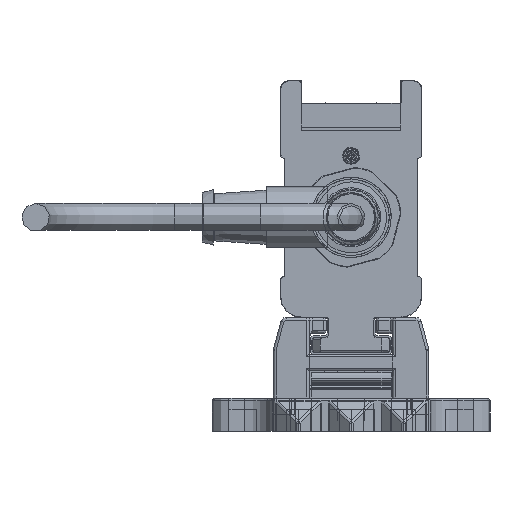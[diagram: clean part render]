
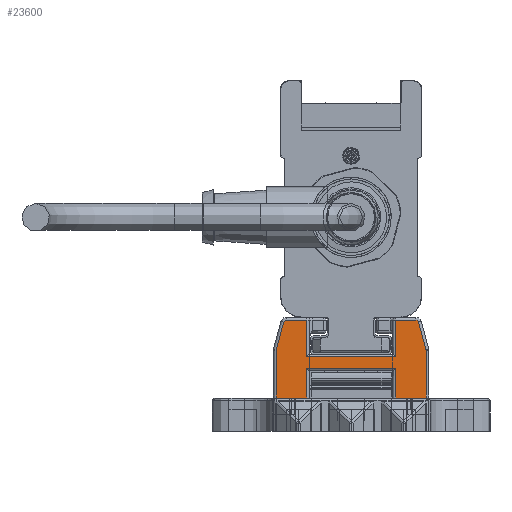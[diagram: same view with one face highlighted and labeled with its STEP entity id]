
A CAD part, left-side view. The second image highlights one B-rep face of the part: STEP entity #23600.
In plain terms, the highlighted planar face has unit normal (-1, 0, 0).
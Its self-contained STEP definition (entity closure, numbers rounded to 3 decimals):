
#23600=ADVANCED_FACE('', (#23610), #23620, .T.);
#189050=AXIS2_PLACEMENT_3D('Ax2Pl3d', #189060, #189070, #189080);
#189290=AXIS2_PLACEMENT_3D('Ax2Pl3d', #189300, #189310, #189320);
#194170=AXIS2_PLACEMENT_3D('Ax2Pl3d', #194180, #194190, #194200);
#199250=AXIS2_PLACEMENT_3D('Ax2Pl3d', #199260, #199270, #199280);
#208930=AXIS2_PLACEMENT_3D('Ax2Pl3d', #208940, #208950, #208960);
#844600=CARTESIAN_POINT('', (-747.669,-6006.345,
331.37));
#189060=CARTESIAN_POINT('HicPkt', (-747.669,-6005.379,
331.111));
#844610=CARTESIAN_POINT('', (-747.669,-6006.379,331.111)
);
#844620=CARTESIAN_POINT('', (-747.669,-6005.037,
336.255));
#844640=CARTESIAN_POINT('', (-747.669,-6005.037,
336.255));
#844670=CARTESIAN_POINT('', (-747.669,-6004.554,
336.625));
#189300=CARTESIAN_POINT('HicPkt', (-747.669,-6004.554,
336.125));
#844890=CARTESIAN_POINT('', (-747.669,-6006.379,322.625)
);
#844900=CARTESIAN_POINT('', (-747.669,-6000.881,322.625)
);
#844910=CARTESIAN_POINT('', (-747.669,-6000.881,322.625)
);
#844990=CARTESIAN_POINT('', (-747.669,-5984.881,322.625)
);
#845000=CARTESIAN_POINT('', (-747.669,-5979.383,322.625)
);
#845010=CARTESIAN_POINT('', (-747.669,-5979.383,322.625)
);
#194180=CARTESIAN_POINT('HicPkt', (-747.669,-5981.209,
336.125));
#847480=CARTESIAN_POINT('', (-747.669,-5980.726,
336.255));
#847490=CARTESIAN_POINT('', (-747.669,-5981.209,
336.625));
#847500=CARTESIAN_POINT('', (-747.669,-6000.881,
330.025));
#847510=CARTESIAN_POINT('', (-747.669,-5984.881,
330.025));
#847520=CARTESIAN_POINT('', (-747.669,-6000.881,
330.025));
#847680=CARTESIAN_POINT('', (-747.669,-6000.881,
328.005));
#847690=CARTESIAN_POINT('', (-747.669,-5984.881,
328.005));
#847700=CARTESIAN_POINT('', (-747.669,-5984.881,
328.005));
#847710=CARTESIAN_POINT('', (-747.669,-6000.881,
328.005));
#847730=CARTESIAN_POINT('', (-747.669,-5984.881,322.625)
);
#847740=CARTESIAN_POINT('', (-747.669,-5984.881,
330.025));
#847750=CARTESIAN_POINT('', (-747.669,-5984.881,
336.625));
#848600=CARTESIAN_POINT('', (-747.669,-5984.881,
336.625));
#848610=CARTESIAN_POINT('', (-747.669,-5980.726,
336.255));
#848620=CARTESIAN_POINT('', (-747.669,-5979.417,
331.37));
#848810=CARTESIAN_POINT('', (-747.669,-5979.383,331.111)
);
#848820=CARTESIAN_POINT('', (-747.669,-5979.383,331.111)
);
#199260=CARTESIAN_POINT('HicPkt', (-747.669,-5980.383,
331.111));
#849630=CARTESIAN_POINT('', (-747.669,-6006.379,331.111)
);
#208940=CARTESIAN_POINT('HicPkt', (-747.669,-6004.554,
336.625));
#851430=CARTESIAN_POINT('', (-747.669,-6000.881,
336.625));
#851440=CARTESIAN_POINT('', (-747.669,-6000.881,
336.625));
#851450=CARTESIAN_POINT('', (-747.669,-6000.881,
336.625));
#981330=CIRCLE('Circle', #189050, 1.);
#981370=CIRCLE('Circle', #189290, 0.5);
#981950=CIRCLE('Circle', #194170, 0.5);
#982480=CIRCLE('Circle', #199250, 1.);
#189070=DIRECTION('Axis', (-1.,0.,
0.));
#189080=DIRECTION('RefDirection', (0.,
0.,-1.));
#1367870=DIRECTION('', (0.,0.259,
0.966));
#189310=DIRECTION('Axis', (-1.,0.,
0.));
#189320=DIRECTION('RefDirection', (0.,
0.,-1.));
#1367980=DIRECTION('', (0.,1.,0.));
#1368020=DIRECTION('', (0.,1.,0.));
#194190=DIRECTION('Axis', (1.,0.,
0.));
#194200=DIRECTION('RefDirection', (0.,
0.,-1.));
#1369210=DIRECTION('', (0.,-1.,0.));
#1369310=DIRECTION('', (0.,1.,0.));
#1369320=DIRECTION('', (0.,0.,1.));
#1369340=DIRECTION('', (0.,0.,-1.));
#1369350=DIRECTION('', (0.,0.,-1.));
#1369780=DIRECTION('', (0.,-1.,0.))
;
#1369790=DIRECTION('', (0.,-0.259,0.966));
#1369880=DIRECTION('', (0.,0.,1.));
#199270=DIRECTION('Axis', (1.,0.,
0.));
#199280=DIRECTION('RefDirection', (0.,
0.,-1.));
#1370250=DIRECTION('', (0.,0.,1.));
#208950=DIRECTION('Axis', (-1.,0.,
0.));
#208960=DIRECTION('RefDirection', (0.,
0.,-1.));
#1371090=DIRECTION('', (0.,1.,0.));
#1371100=DIRECTION('', (0.,0.,1.));
#1456860=EDGE_CURVE('', #1456870, #1456850, #981330, .T.);
#1456920=EDGE_CURVE('', #1456850, #1456900, #1456930, .T.);
#1456990=EDGE_CURVE('', #1456900, #1456980, #981370, .T.);
#1457440=EDGE_CURVE('', #1457430, #1457450, #1457460, .T.);
#1457600=EDGE_CURVE('', #1457590, #1457610, #1457620, .T.);
#1461960=EDGE_CURVE('', #1461970, #1461980, #981950, .T.);
#1462010=EDGE_CURVE('', #1462020, #1462030, #1462040, .T.);
#1462380=EDGE_CURVE('', #1462360, #1462390, #1462400, .T.);
#1462430=EDGE_CURVE('', #1457450, #1462360, #1462440, .T.);
#1462470=EDGE_CURVE('', #1462390, #1457590, #1462480, .T.);
#1462490=EDGE_CURVE('', #1462500, #1462020, #1462510, .T.);
#1464330=EDGE_CURVE('', #1461980, #1462500, #1464340, .T.);
#1464400=EDGE_CURVE('', #1464410, #1461970, #1464420, .T.);
#1464840=EDGE_CURVE('', #1457610, #1464850, #1464860, .T.);
#1464880=EDGE_CURVE('', #1464850, #1464410, #982480, .T.);
#1466590=EDGE_CURVE('', #1457430, #1456870, #1466600, .T.);
#1470400=EDGE_CURVE('', #1456980, #1470410, #1470420, .T.);
#1470430=EDGE_CURVE('', #1462030, #1470410, #1470440, .T.);
#1750440=EDGE_LOOP('Edge_loop', (#1750450,#1750460,#1750470,#1750480,
#1750490,#1750500,#1750510,#1750520,#1750530,#1750540,#1750550,
#1750560,#1750570,#1750580,#1750590,#1750600,#1750610,#1750620));
#23610=FACE_OUTER_BOUND('Face_outer_bound', #1750440, .T.);
#1456930=LINE('Line', #844640, #2017940);
#1457460=LINE('Line', #844900, #2018050);
#1457620=LINE('Line', #845000, #2018090);
#1462040=LINE('Line', #847500, #2019280);
#1462400=LINE('Line', #847690, #2019380);
#1462440=LINE('Line', #847710, #2019390);
#1462480=LINE('Line', #847730, #2019410);
#1462510=LINE('Line', #847740, #2019420);
#1464340=LINE('Line', #848600, #2019850);
#1464420=LINE('Line', #848610, #2019860);
#1464860=LINE('Line', #848810, #2019950);
#1466600=LINE('Line', #849630, #2020320);
#1470420=LINE('Line', #851430, #2021160);
#1470440=LINE('Line', #851450, #2021170);
#1750450=ORIENTED_EDGE('', *, *, #1470400, .T.);
#1750460=ORIENTED_EDGE('', *, *, #1470430, .F.);
#1750470=ORIENTED_EDGE('', *, *, #1462010, .F.);
#1750480=ORIENTED_EDGE('', *, *, #1462490, .F.);
#1750490=ORIENTED_EDGE('', *, *, #1464330, .F.);
#1750500=ORIENTED_EDGE('', *, *, #1461960, .F.);
#1750510=ORIENTED_EDGE('', *, *, #1464400, .F.);
#1750520=ORIENTED_EDGE('', *, *, #1464880, .F.);
#1750530=ORIENTED_EDGE('', *, *, #1464840, .F.);
#1750540=ORIENTED_EDGE('', *, *, #1457600, .F.);
#1750550=ORIENTED_EDGE('', *, *, #1462470, .F.);
#1750560=ORIENTED_EDGE('', *, *, #1462380, .F.);
#1750570=ORIENTED_EDGE('', *, *, #1462430, .F.);
#1750580=ORIENTED_EDGE('', *, *, #1457440, .F.);
#1750590=ORIENTED_EDGE('', *, *, #1466590, .T.);
#1750600=ORIENTED_EDGE('', *, *, #1456860, .T.);
#1750610=ORIENTED_EDGE('', *, *, #1456920, .T.);
#1750620=ORIENTED_EDGE('', *, *, #1456990, .T.);
#23620=PLANE('Plane', #208930);
#2017940=VECTOR('', #1367870, 5.057);
#2018050=VECTOR('', #1367980, 5.498);
#2018090=VECTOR('', #1368020, 5.498);
#2019280=VECTOR('', #1369210, 16.);
#2019380=VECTOR('', #1369310, 16.);
#2019390=VECTOR('', #1369320, 5.38);
#2019410=VECTOR('', #1369340, 5.38);
#2019420=VECTOR('', #1369350, 6.6);
#2019850=VECTOR('', #1369780, 3.672);
#2019860=VECTOR('', #1369790, 5.057);
#2019950=VECTOR('', #1369880, 8.486);
#2020320=VECTOR('', #1370250, 8.486);
#2021160=VECTOR('', #1371090, 3.672);
#2021170=VECTOR('', #1371100, 6.6);
#1456850=VERTEX_POINT('', #844600);
#1456870=VERTEX_POINT('', #844610);
#1456900=VERTEX_POINT('', #844620);
#1456980=VERTEX_POINT('', #844670);
#1457430=VERTEX_POINT('', #844890);
#1457450=VERTEX_POINT('', #844910);
#1457590=VERTEX_POINT('', #844990);
#1457610=VERTEX_POINT('', #845010);
#1461970=VERTEX_POINT('', #847480);
#1461980=VERTEX_POINT('', #847490);
#1462020=VERTEX_POINT('', #847510);
#1462030=VERTEX_POINT('', #847520);
#1462360=VERTEX_POINT('', #847680);
#1462390=VERTEX_POINT('', #847700);
#1462500=VERTEX_POINT('', #847750);
#1464410=VERTEX_POINT('', #848620);
#1464850=VERTEX_POINT('', #848820);
#1470410=VERTEX_POINT('', #851440);
